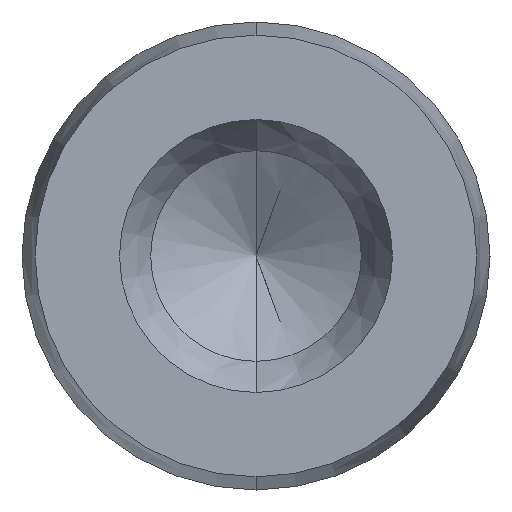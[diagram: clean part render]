
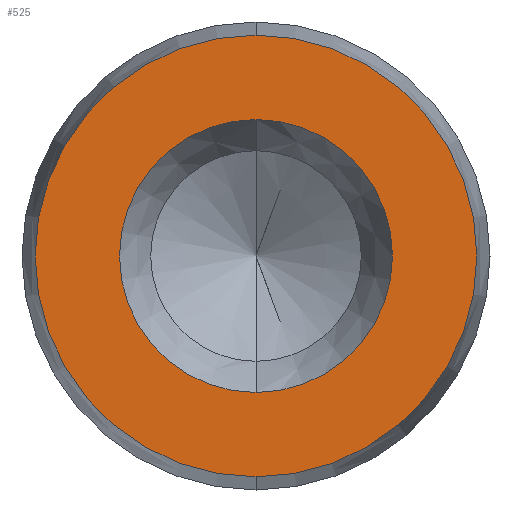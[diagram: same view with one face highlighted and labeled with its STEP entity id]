
A CAD part, front view. The second image highlights one B-rep face of the part: STEP entity #525.
In plain terms, the highlighted planar face has unit normal (0, -1, 0).
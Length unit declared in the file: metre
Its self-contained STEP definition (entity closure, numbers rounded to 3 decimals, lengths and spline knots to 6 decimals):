
#9 = EDGE_CURVE ( 'NONE', #411, #458, #12, .T. ) ;
#12 = CIRCLE ( 'NONE', #68, 0.007078 ) ;
#18 = EDGE_CURVE ( 'NONE', #455, #445, #56, .T. ) ;
#19 = AXIS2_PLACEMENT_3D ( 'NONE', #364, #366, #368 ) ;
#33 = CIRCLE ( 'NONE', #19, 0.007078 ) ;
#34 = EDGE_CURVE ( 'NONE', #458, #411, #33, .T. ) ;
#35 = EDGE_CURVE ( 'NONE', #445, #455, #67, .T. ) ;
#38 = AXIS2_PLACEMENT_3D ( 'NONE', #360, #371, #295 ) ;
#56 = CIRCLE ( 'NONE', #73, 0.004375 ) ;
#67 = CIRCLE ( 'NONE', #38, 0.004375 ) ;
#68 = AXIS2_PLACEMENT_3D ( 'NONE', #264, #255, #223 ) ;
#73 = AXIS2_PLACEMENT_3D ( 'NONE', #196, #198, #250 ) ;
#96 = AXIS2_PLACEMENT_3D ( 'NONE', #180, #163, #164 ) ;
#163 = DIRECTION ( 'NONE',  ( 0., -1., 0. ) ) ;
#164 = DIRECTION ( 'NONE',  ( 0., 0., -1. ) ) ;
#165 = PLANE ( 'NONE',  #96 ) ;
#180 = CARTESIAN_POINT ( 'NONE',  ( 0.004375, 0., 0. ) ) ;
#193 = FACE_OUTER_BOUND ( 'NONE', #490, .T. ) ;
#194 = FACE_BOUND ( 'NONE', #219, .T. ) ;
#196 = CARTESIAN_POINT ( 'NONE',  ( 0., 0., 0. ) ) ;
#198 = DIRECTION ( 'NONE',  ( 0., -1., 0. ) ) ;
#219 = EDGE_LOOP ( 'NONE', ( #408, #425 ) ) ;
#223 = DIRECTION ( 'NONE',  ( 0., 0., -1. ) ) ;
#234 = CARTESIAN_POINT ( 'NONE',  ( 0., 0., 0.004375 ) ) ;
#237 = CARTESIAN_POINT ( 'NONE',  ( 0., 0., 0.007078 ) ) ;
#250 = DIRECTION ( 'NONE',  ( 0., 0., -1. ) ) ;
#255 = DIRECTION ( 'NONE',  ( 0., -1., 0. ) ) ;
#264 = CARTESIAN_POINT ( 'NONE',  ( 0., 0., 0. ) ) ;
#295 = DIRECTION ( 'NONE',  ( 0., 0., -1. ) ) ;
#313 = CARTESIAN_POINT ( 'NONE',  ( 0., 0., -0.007078 ) ) ;
#354 = CARTESIAN_POINT ( 'NONE',  ( 0., 0., -0.004375 ) ) ;
#360 = CARTESIAN_POINT ( 'NONE',  ( 0., 0., 0. ) ) ;
#364 = CARTESIAN_POINT ( 'NONE',  ( 0., 0., 0. ) ) ;
#366 = DIRECTION ( 'NONE',  ( 0., -1., 0. ) ) ;
#368 = DIRECTION ( 'NONE',  ( 0., 0., -1. ) ) ;
#371 = DIRECTION ( 'NONE',  ( 0., -1., 0. ) ) ;
#408 = ORIENTED_EDGE ( 'NONE', *, *, #35, .F. ) ;
#411 = VERTEX_POINT ( 'NONE', #313 ) ;
#417 = ORIENTED_EDGE ( 'NONE', *, *, #34, .T. ) ;
#425 = ORIENTED_EDGE ( 'NONE', *, *, #18, .F. ) ;
#445 = VERTEX_POINT ( 'NONE', #354 ) ;
#455 = VERTEX_POINT ( 'NONE', #234 ) ;
#458 = VERTEX_POINT ( 'NONE', #237 ) ;
#490 = EDGE_LOOP ( 'NONE', ( #417, #492 ) ) ;
#492 = ORIENTED_EDGE ( 'NONE', *, *, #9, .T. ) ;
#525 = ADVANCED_FACE ( 'NONE', ( #193, #194 ), #165, .T. ) ;
